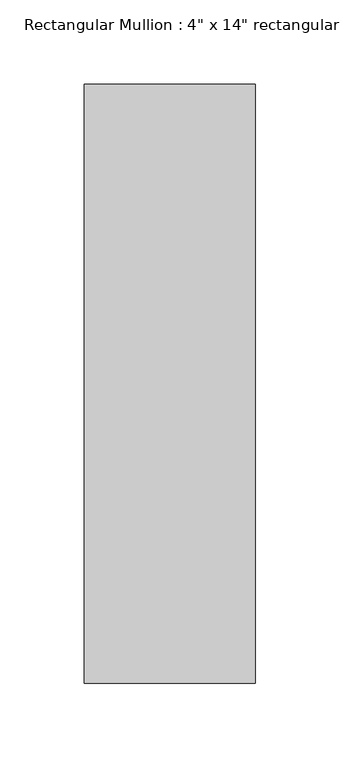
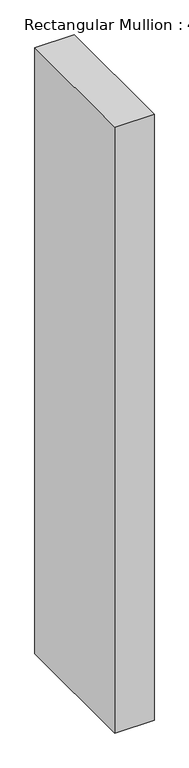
"""IFC4 building model written with IfcOpenShell, lengths in millimetres: member geometry."""

from ifc_helpers import new_model, si_unit, frame, origin, place, context, project, spatial, polyline, outline, extrude, source, transform, mapped, element, save


def member_ea0c1c42(model_context):
    return source(origin(), model_context, "Body", "SweptSolid", [
        extrude(outline(polyline([(50.8, 12.7), (50.8, -342.9), (-50.8, -342.9), (-50.8, 12.7), (50.8, 12.7)])), frame((0.0, 0.0, -1651.0), z_axis=(0.0, 0.0, 1.0), x_axis=(1.0, 0.0, 0.0)), (0.0, 0.0, 1.0), 1651.0),
    ])


if __name__ == "__main__":
    model = new_model("IFC4")
    model_context = context("Model", 3, world=origin())
    ifc_project = project(units=[si_unit("LENGTHUNIT", "METRE", prefix="MILLI")], contexts=[model_context])
    site = spatial("IfcSite", under=ifc_project)
    building = spatial("IfcBuilding", under=site)
    placement = place(None, origin())
    member_shape = member_ea0c1c42(model_context)
    element("IfcMember", 1, ObjectType="Rectangular Mullion : 4\" x 14\" rectangular", at=placement, inside=building, context=model_context, shape_type="MappedRepresentation", body=[
        mapped(member_shape, transform((0.0, 0.0, 0.0), x_axis=(1.0, 0.0, 0.0), y_axis=(0.0, 1.0, 0.0), z_axis=(0.0, 0.0, 1.0))),
    ])
    save(model, "model.ifc")
